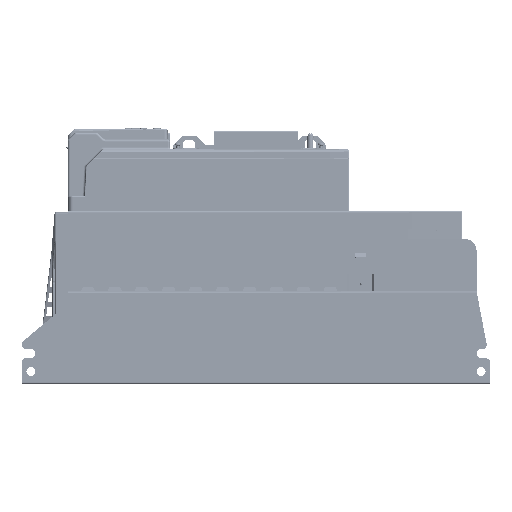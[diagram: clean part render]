
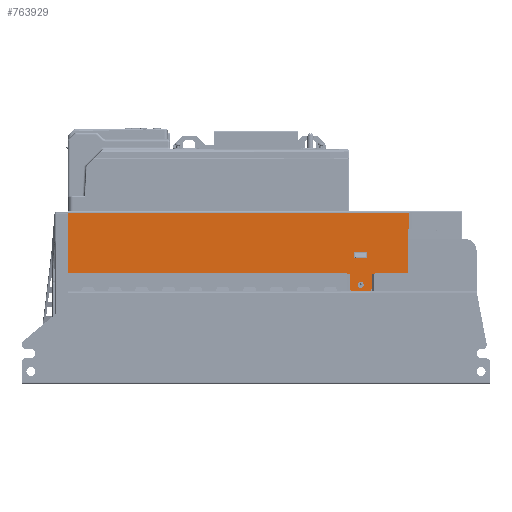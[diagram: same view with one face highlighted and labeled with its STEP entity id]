
A CAD part, front view. The second image highlights one B-rep face of the part: STEP entity #763929.
In plain terms, the highlighted planar face has unit normal (0, -1, 0).
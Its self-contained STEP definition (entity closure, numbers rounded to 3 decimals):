
#763760=DIRECTION('',(0.,0.,-1.));
#763761=VECTOR('',#763760,13.2);
#763762=CARTESIAN_POINT('',(49.25,-73.75,98.));
#763763=LINE('',#763762,#763761);
#763764=CARTESIAN_POINT('',(49.25,-73.75,84.8));
#763765=CARTESIAN_POINT('',(49.244,-73.75,84.522));
#763766=CARTESIAN_POINT('',(49.144,-73.75,84.012));
#763767=CARTESIAN_POINT('',(48.701,-73.75,83.349));
#763768=CARTESIAN_POINT('',(48.038,-73.75,82.906));
#763769=CARTESIAN_POINT('',(47.528,-73.75,82.806));
#763770=CARTESIAN_POINT('',(47.25,-73.75,82.8));
#763772=DIRECTION('',(-1.,0.,0.));
#763773=VECTOR('',#763772,15.4);
#763774=CARTESIAN_POINT('',(47.25,-73.75,82.8));
#763775=LINE('',#763774,#763773);
#763776=CARTESIAN_POINT('',(31.85,-73.75,82.8));
#763777=CARTESIAN_POINT('',(31.572,-73.75,82.806));
#763778=CARTESIAN_POINT('',(31.062,-73.75,82.906));
#763779=CARTESIAN_POINT('',(30.399,-73.75,83.349));
#763780=CARTESIAN_POINT('',(29.956,-73.75,84.012));
#763781=CARTESIAN_POINT('',(29.856,-73.75,84.522));
#763782=CARTESIAN_POINT('',(29.85,-73.75,84.8));
#763784=DIRECTION('',(0.,0.,1.));
#763785=VECTOR('',#763784,13.2);
#763786=CARTESIAN_POINT('',(29.85,-73.75,84.8));
#763787=LINE('',#763786,#763785);
#763788=DIRECTION('',(-1.,0.,0.));
#763789=VECTOR('',#763788,251.3);
#763790=CARTESIAN_POINT('',(29.85,-73.75,98.));
#763791=LINE('',#763790,#763789);
#763792=DIRECTION('',(0.,0.,1.));
#763793=VECTOR('',#763792,54.65);
#763794=CARTESIAN_POINT('',(-221.45,-73.75,98.));
#763795=LINE('',#763794,#763793);
#763796=DIRECTION('',(1.,0.,0.));
#763797=VECTOR('',#763796,304.);
#763798=CARTESIAN_POINT('',(-221.45,-73.75,152.65));
#763799=LINE('',#763798,#763797);
#763800=DIRECTION('',(0.,0.,-1.));
#763801=VECTOR('',#763800,54.65);
#763802=CARTESIAN_POINT('',(82.55,-73.75,152.65));
#763803=LINE('',#763802,#763801);
#763804=DIRECTION('',(-1.,0.,0.));
#763805=VECTOR('',#763804,33.3);
#763806=CARTESIAN_POINT('',(82.55,-73.75,98.));
#763807=LINE('',#763806,#763805);
#763808=CARTESIAN_POINT('',(42.3,-73.75,88.3));
#763809=CARTESIAN_POINT('',(42.294,-73.75,88.682));
#763810=CARTESIAN_POINT('',(42.157,-73.75,89.382));
#763811=CARTESIAN_POINT('',(41.53,-73.75,90.312));
#763812=CARTESIAN_POINT('',(40.619,-73.75,90.91));
#763813=CARTESIAN_POINT('',(39.539,-73.75,91.122));
#763814=CARTESIAN_POINT('',(38.458,-73.75,90.9));
#763815=CARTESIAN_POINT('',(37.558,-73.75,90.297));
#763816=CARTESIAN_POINT('',(36.943,-73.75,89.378));
#763817=CARTESIAN_POINT('',(36.806,-73.75,88.68));
#763818=CARTESIAN_POINT('',(36.8,-73.75,88.3));
#763820=CARTESIAN_POINT('',(36.8,-73.75,88.3));
#763821=CARTESIAN_POINT('',(36.8,-73.75,88.168));
#763822=CARTESIAN_POINT('',(36.819,-73.75,87.906));
#763823=CARTESIAN_POINT('',(36.904,-73.75,87.518));
#763824=CARTESIAN_POINT('',(36.996,-73.75,87.273));
#763825=CARTESIAN_POINT('',(37.051,-73.75,87.153));
#763827=CARTESIAN_POINT('',(37.051,-73.75,87.153));
#763828=CARTESIAN_POINT('',(37.216,-73.75,86.811));
#763829=CARTESIAN_POINT('',(37.629,-73.75,86.235));
#763830=CARTESIAN_POINT('',(38.56,-73.75,85.66));
#763831=CARTESIAN_POINT('',(39.617,-73.75,85.483));
#763832=CARTESIAN_POINT('',(40.664,-73.75,85.712));
#763833=CARTESIAN_POINT('',(41.551,-73.75,86.314));
#763834=CARTESIAN_POINT('',(42.158,-73.75,87.225));
#763835=CARTESIAN_POINT('',(42.293,-73.75,87.92));
#763836=CARTESIAN_POINT('',(42.3,-73.75,88.3));
#763838=DIRECTION('',(0.,0.,-1.));
#763839=VECTOR('',#763838,5.65);
#763840=CARTESIAN_POINT('',(33.55,-73.75,117.5));
#763841=LINE('',#763840,#763839);
#763842=DIRECTION('',(1.,0.,0.));
#763843=VECTOR('',#763842,12.);
#763844=CARTESIAN_POINT('',(33.55,-73.75,111.85));
#763845=LINE('',#763844,#763843);
#763846=DIRECTION('',(0.,0.,1.));
#763847=VECTOR('',#763846,5.65);
#763848=CARTESIAN_POINT('',(45.55,-73.75,111.85));
#763849=LINE('',#763848,#763847);
#763850=DIRECTION('',(-1.,0.,0.));
#763851=VECTOR('',#763850,12.);
#763852=CARTESIAN_POINT('',(45.55,-73.75,117.5));
#763853=LINE('',#763852,#763851);
#763854=CARTESIAN_POINT('',(49.25,-73.75,84.8));
#763855=CARTESIAN_POINT('',(49.25,-73.75,98.));
#763856=VERTEX_POINT('',#763854);
#763857=VERTEX_POINT('',#763855);
#763858=CARTESIAN_POINT('',(82.55,-73.75,98.));
#763859=VERTEX_POINT('',#763858);
#763860=CARTESIAN_POINT('',(82.55,-73.75,152.65));
#763861=VERTEX_POINT('',#763860);
#763862=CARTESIAN_POINT('',(-221.45,-73.75,152.65));
#763863=VERTEX_POINT('',#763862);
#763864=CARTESIAN_POINT('',(-221.45,-73.75,98.));
#763865=VERTEX_POINT('',#763864);
#763866=CARTESIAN_POINT('',(29.85,-73.75,98.));
#763867=VERTEX_POINT('',#763866);
#763868=CARTESIAN_POINT('',(29.85,-73.75,84.8));
#763869=VERTEX_POINT('',#763868);
#763870=VERTEX_POINT('',#763776);
#763871=CARTESIAN_POINT('',(47.25,-73.75,82.8));
#763872=VERTEX_POINT('',#763871);
#763873=VERTEX_POINT('',#763818);
#763874=VERTEX_POINT('',#763808);
#763875=VERTEX_POINT('',#763827);
#763876=CARTESIAN_POINT('',(33.55,-73.75,111.85));
#763877=CARTESIAN_POINT('',(33.55,-73.75,117.5));
#763878=VERTEX_POINT('',#763876);
#763879=VERTEX_POINT('',#763877);
#763880=CARTESIAN_POINT('',(45.55,-73.75,117.5));
#763881=VERTEX_POINT('',#763880);
#763882=CARTESIAN_POINT('',(45.55,-73.75,111.85));
#763883=VERTEX_POINT('',#763882);
#763884=CARTESIAN_POINT('',(-252.264,-73.75,160.049));
#763885=DIRECTION('',(0.,-1.,0.));
#763886=DIRECTION('',(1.,0.,0.));
#763887=AXIS2_PLACEMENT_3D('',#763884,#763885,#763886);
#763888=PLANE('',#763887);
#763890=ORIENTED_EDGE('',*,*,#763889,.T.);
#763892=ORIENTED_EDGE('',*,*,#763891,.T.);
#763894=ORIENTED_EDGE('',*,*,#763893,.T.);
#763896=ORIENTED_EDGE('',*,*,#763895,.T.);
#763898=ORIENTED_EDGE('',*,*,#763897,.T.);
#763900=ORIENTED_EDGE('',*,*,#763899,.T.);
#763902=ORIENTED_EDGE('',*,*,#763901,.T.);
#763904=ORIENTED_EDGE('',*,*,#763903,.T.);
#763906=ORIENTED_EDGE('',*,*,#763905,.T.);
#763908=ORIENTED_EDGE('',*,*,#763907,.T.);
#763909=EDGE_LOOP('',(#763890,#763892,#763894,#763896,#763898,#763900,#763902,
#763904,#763906,#763908));
#763910=FACE_OUTER_BOUND('',#763909,.F.);
#763912=ORIENTED_EDGE('',*,*,#763911,.T.);
#763914=ORIENTED_EDGE('',*,*,#763913,.T.);
#763916=ORIENTED_EDGE('',*,*,#763915,.T.);
#763917=EDGE_LOOP('',(#763912,#763914,#763916));
#763918=FACE_BOUND('',#763917,.F.);
#763920=ORIENTED_EDGE('',*,*,#763919,.T.);
#763922=ORIENTED_EDGE('',*,*,#763921,.T.);
#763924=ORIENTED_EDGE('',*,*,#763923,.T.);
#763926=ORIENTED_EDGE('',*,*,#763925,.T.);
#763927=EDGE_LOOP('',(#763920,#763922,#763924,#763926));
#763928=FACE_BOUND('',#763927,.F.);
#763929=ADVANCED_FACE('',(#763910,#763918,#763928),#763888,.T.);
#763771=B_SPLINE_CURVE_WITH_KNOTS('',3,(#763764,#763765,#763766,#763767,#763768,
#763769,#763770),.UNSPECIFIED.,.F.,.F.,(4,1,1,1,4),(0.,0.25,0.5,0.75,
1.),.UNSPECIFIED.);
#763783=B_SPLINE_CURVE_WITH_KNOTS('',3,(#763776,#763777,#763778,#763779,#763780,
#763781,#763782),.UNSPECIFIED.,.F.,.F.,(4,1,1,1,4),(0.,0.25,0.5,0.75,
1.),.UNSPECIFIED.);
#763819=B_SPLINE_CURVE_WITH_KNOTS('',3,(#763808,#763809,#763810,#763811,#763812,
#763813,#763814,#763815,#763816,#763817,#763818),.UNSPECIFIED.,.F.,.F.,(4,1,1,1,
1,1,1,1,4),(0.,0.125,0.25,0.375,0.5,0.625,0.75,0.875,1.),
.UNSPECIFIED.);
#763826=B_SPLINE_CURVE_WITH_KNOTS('',3,(#763820,#763821,#763822,#763823,#763824,
#763825),.UNSPECIFIED.,.F.,.F.,(4,1,1,4),(0.,0.333,
0.667,1.),.UNSPECIFIED.);
#763837=B_SPLINE_CURVE_WITH_KNOTS('',3,(#763827,#763828,#763829,#763830,#763831,
#763832,#763833,#763834,#763835,#763836),.UNSPECIFIED.,.F.,.F.,(4,1,1,1,1,1,1,
4),(0.,0.143,0.286,0.429,
0.571,0.714,0.857,1.),.UNSPECIFIED.);
#763889=EDGE_CURVE('',#763857,#763856,#763763,.T.);
#763891=EDGE_CURVE('',#763856,#763872,#763771,.T.);
#763893=EDGE_CURVE('',#763872,#763870,#763775,.T.);
#763895=EDGE_CURVE('',#763870,#763869,#763783,.T.);
#763897=EDGE_CURVE('',#763869,#763867,#763787,.T.);
#763899=EDGE_CURVE('',#763867,#763865,#763791,.T.);
#763901=EDGE_CURVE('',#763865,#763863,#763795,.T.);
#763903=EDGE_CURVE('',#763863,#763861,#763799,.T.);
#763905=EDGE_CURVE('',#763861,#763859,#763803,.T.);
#763907=EDGE_CURVE('',#763859,#763857,#763807,.T.);
#763911=EDGE_CURVE('',#763874,#763873,#763819,.T.);
#763913=EDGE_CURVE('',#763873,#763875,#763826,.T.);
#763915=EDGE_CURVE('',#763875,#763874,#763837,.T.);
#763919=EDGE_CURVE('',#763879,#763878,#763841,.T.);
#763921=EDGE_CURVE('',#763878,#763883,#763845,.T.);
#763923=EDGE_CURVE('',#763883,#763881,#763849,.T.);
#763925=EDGE_CURVE('',#763881,#763879,#763853,.T.);
